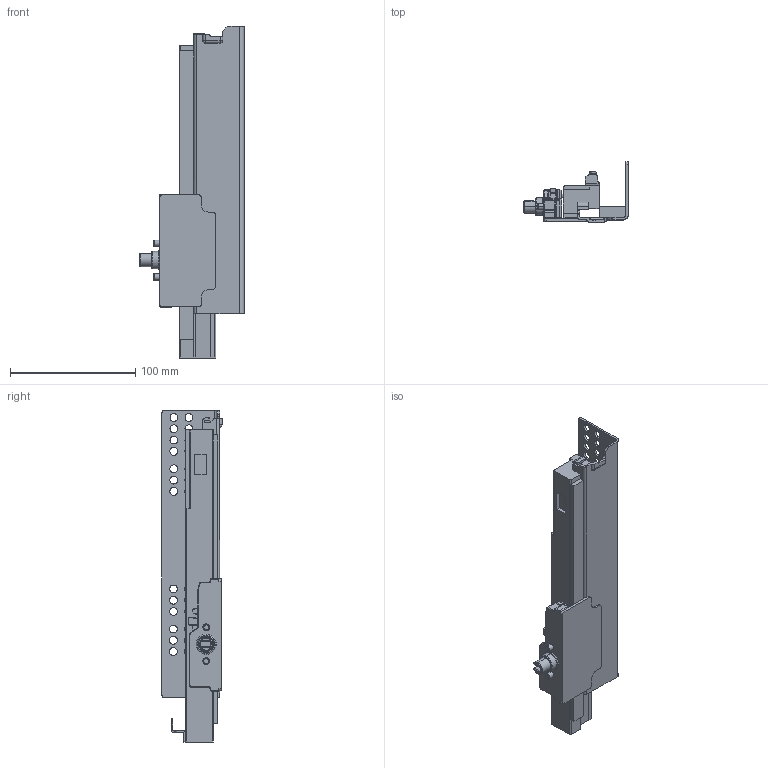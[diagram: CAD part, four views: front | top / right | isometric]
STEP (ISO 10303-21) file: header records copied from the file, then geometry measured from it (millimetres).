
FILE_DESCRIPTION (( 'STEP AP203' ), '1' );
FILE_NAME ('TF10270H-R-DTC3D-close.STEP', '2021-06-03T00:35:48', ( 'df' ), ( 'Microsoft' ), 'SwSTEP 2.0', 'SolidWorks 2018', '' );
FILE_SCHEMA (( 'CONFIG_CONTROL_DESIGN' ));
Length unit declared in the file: millimetre
Products named in the file (1): TF10270H-R-DTC3D-close
Bounding box: 83.3 x 48 x 265.27 mm (x, y, z)
Volume: 247163.7 mm3; surface area: 78311.1 mm2
Topology: 1 solids, 4 shells, 517 faces, 1336 edges, 823 vertices
Faces by surface type: cylinder 240, plane 169, bspline 102, sphere 4, torus 2
Entity records: 17940 total; most frequent: CARTESIAN_POINT 5531, ORIENTED_EDGE 2650, DIRECTION 2543, EDGE_CURVE 1325, AXIS2_PLACEMENT_3D 937, VERTEX_POINT 823, LINE 669, VECTOR 669
